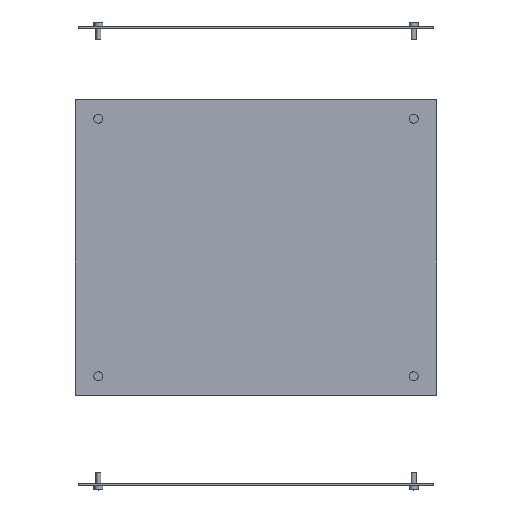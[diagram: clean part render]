
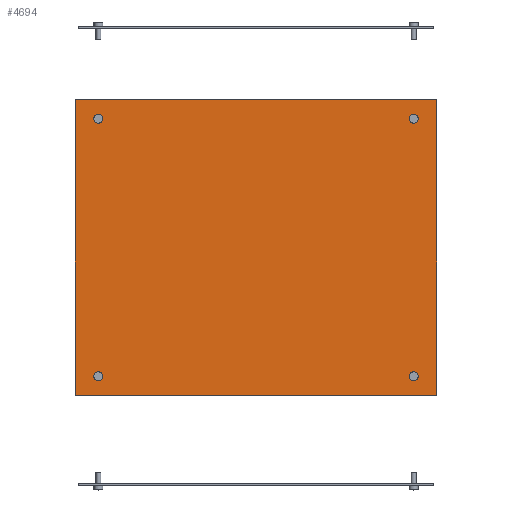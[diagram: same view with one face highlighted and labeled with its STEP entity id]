
A CAD part, top view. The second image highlights one B-rep face of the part: STEP entity #4694.
In plain terms, the highlighted planar face has unit normal (0, 0, 1).
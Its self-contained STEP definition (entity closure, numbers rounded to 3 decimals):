
#4505 = VERTEX_POINT('',#4506);
#4506 = CARTESIAN_POINT('',(-110.,-90.,155.));
#4513 = PLANE('',#4514);
#4514 = AXIS2_PLACEMENT_3D('',#4515,#4516,#4517);
#4515 = CARTESIAN_POINT('',(-110.,-90.,153.5));
#4516 = DIRECTION('',(1.,0.,0.));
#4517 = DIRECTION('',(0.,0.,1.));
#4525 = PLANE('',#4526);
#4526 = AXIS2_PLACEMENT_3D('',#4527,#4528,#4529);
#4527 = CARTESIAN_POINT('',(-110.,-90.,153.5));
#4528 = DIRECTION('',(0.,1.,0.));
#4529 = DIRECTION('',(0.,0.,1.));
#4566 = VERTEX_POINT('',#4567);
#4567 = CARTESIAN_POINT('',(-110.,90.,155.));
#4581 = PLANE('',#4582);
#4582 = AXIS2_PLACEMENT_3D('',#4583,#4584,#4585);
#4583 = CARTESIAN_POINT('',(-110.,90.,153.5));
#4584 = DIRECTION('',(0.,1.,0.));
#4585 = DIRECTION('',(0.,0.,1.));
#4593 = EDGE_CURVE('',#4505,#4566,#4594,.T.);
#4594 = SURFACE_CURVE('',#4595,(#4599,#4606),.PCURVE_S1.);
#4595 = LINE('',#4596,#4597);
#4596 = CARTESIAN_POINT('',(-110.,-90.,155.));
#4597 = VECTOR('',#4598,1.);
#4598 = DIRECTION('',(0.,1.,0.));
#4599 = PCURVE('',#4513,#4600);
#4600 = DEFINITIONAL_REPRESENTATION('',(#4601),#4605);
#4601 = LINE('',#4602,#4603);
#4602 = CARTESIAN_POINT('',(1.5,0.));
#4603 = VECTOR('',#4604,1.);
#4604 = DIRECTION('',(0.,-1.));
#4605 = ( GEOMETRIC_REPRESENTATION_CONTEXT(2) 
PARAMETRIC_REPRESENTATION_CONTEXT() REPRESENTATION_CONTEXT('2D SPACE',''
  ) );
#4606 = PCURVE('',#4607,#4612);
#4607 = PLANE('',#4608);
#4608 = AXIS2_PLACEMENT_3D('',#4609,#4610,#4611);
#4609 = CARTESIAN_POINT('',(-110.,-90.,155.));
#4610 = DIRECTION('',(0.,0.,1.));
#4611 = DIRECTION('',(1.,0.,0.));
#4612 = DEFINITIONAL_REPRESENTATION('',(#4613),#4617);
#4613 = LINE('',#4614,#4615);
#4614 = CARTESIAN_POINT('',(0.,0.));
#4615 = VECTOR('',#4616,1.);
#4616 = DIRECTION('',(0.,1.));
#4617 = ( GEOMETRIC_REPRESENTATION_CONTEXT(2) 
PARAMETRIC_REPRESENTATION_CONTEXT() REPRESENTATION_CONTEXT('2D SPACE',''
  ) );
#4646 = EDGE_CURVE('',#4505,#4647,#4649,.T.);
#4647 = VERTEX_POINT('',#4648);
#4648 = CARTESIAN_POINT('',(110.,-90.,155.));
#4649 = SURFACE_CURVE('',#4650,(#4654,#4661),.PCURVE_S1.);
#4650 = LINE('',#4651,#4652);
#4651 = CARTESIAN_POINT('',(-110.,-90.,155.));
#4652 = VECTOR('',#4653,1.);
#4653 = DIRECTION('',(1.,0.,0.));
#4654 = PCURVE('',#4525,#4655);
#4655 = DEFINITIONAL_REPRESENTATION('',(#4656),#4660);
#4656 = LINE('',#4657,#4658);
#4657 = CARTESIAN_POINT('',(1.5,0.));
#4658 = VECTOR('',#4659,1.);
#4659 = DIRECTION('',(0.,1.));
#4660 = ( GEOMETRIC_REPRESENTATION_CONTEXT(2) 
PARAMETRIC_REPRESENTATION_CONTEXT() REPRESENTATION_CONTEXT('2D SPACE',''
  ) );
#4661 = PCURVE('',#4607,#4662);
#4662 = DEFINITIONAL_REPRESENTATION('',(#4663),#4667);
#4663 = LINE('',#4664,#4665);
#4664 = CARTESIAN_POINT('',(0.,0.));
#4665 = VECTOR('',#4666,1.);
#4666 = DIRECTION('',(1.,0.));
#4667 = ( GEOMETRIC_REPRESENTATION_CONTEXT(2) 
PARAMETRIC_REPRESENTATION_CONTEXT() REPRESENTATION_CONTEXT('2D SPACE',''
  ) );
#4683 = PLANE('',#4684);
#4684 = AXIS2_PLACEMENT_3D('',#4685,#4686,#4687);
#4685 = CARTESIAN_POINT('',(110.,-90.,153.5));
#4686 = DIRECTION('',(1.,0.,0.));
#4687 = DIRECTION('',(0.,0.,1.));
#4694 = ADVANCED_FACE('',(#4695,#4743,#4774,#4805,#4836),#4607,.T.);
#4695 = FACE_BOUND('',#4696,.T.);
#4696 = EDGE_LOOP('',(#4697,#4698,#4699,#4722));
#4697 = ORIENTED_EDGE('',*,*,#4593,.F.);
#4698 = ORIENTED_EDGE('',*,*,#4646,.T.);
#4699 = ORIENTED_EDGE('',*,*,#4700,.T.);
#4700 = EDGE_CURVE('',#4647,#4701,#4703,.T.);
#4701 = VERTEX_POINT('',#4702);
#4702 = CARTESIAN_POINT('',(110.,90.,155.));
#4703 = SURFACE_CURVE('',#4704,(#4708,#4715),.PCURVE_S1.);
#4704 = LINE('',#4705,#4706);
#4705 = CARTESIAN_POINT('',(110.,-90.,155.));
#4706 = VECTOR('',#4707,1.);
#4707 = DIRECTION('',(0.,1.,0.));
#4708 = PCURVE('',#4607,#4709);
#4709 = DEFINITIONAL_REPRESENTATION('',(#4710),#4714);
#4710 = LINE('',#4711,#4712);
#4711 = CARTESIAN_POINT('',(220.,0.));
#4712 = VECTOR('',#4713,1.);
#4713 = DIRECTION('',(0.,1.));
#4714 = ( GEOMETRIC_REPRESENTATION_CONTEXT(2) 
PARAMETRIC_REPRESENTATION_CONTEXT() REPRESENTATION_CONTEXT('2D SPACE',''
  ) );
#4715 = PCURVE('',#4683,#4716);
#4716 = DEFINITIONAL_REPRESENTATION('',(#4717),#4721);
#4717 = LINE('',#4718,#4719);
#4718 = CARTESIAN_POINT('',(1.5,0.));
#4719 = VECTOR('',#4720,1.);
#4720 = DIRECTION('',(0.,-1.));
#4721 = ( GEOMETRIC_REPRESENTATION_CONTEXT(2) 
PARAMETRIC_REPRESENTATION_CONTEXT() REPRESENTATION_CONTEXT('2D SPACE',''
  ) );
#4722 = ORIENTED_EDGE('',*,*,#4723,.F.);
#4723 = EDGE_CURVE('',#4566,#4701,#4724,.T.);
#4724 = SURFACE_CURVE('',#4725,(#4729,#4736),.PCURVE_S1.);
#4725 = LINE('',#4726,#4727);
#4726 = CARTESIAN_POINT('',(-110.,90.,155.));
#4727 = VECTOR('',#4728,1.);
#4728 = DIRECTION('',(1.,0.,0.));
#4729 = PCURVE('',#4607,#4730);
#4730 = DEFINITIONAL_REPRESENTATION('',(#4731),#4735);
#4731 = LINE('',#4732,#4733);
#4732 = CARTESIAN_POINT('',(0.,180.));
#4733 = VECTOR('',#4734,1.);
#4734 = DIRECTION('',(1.,0.));
#4735 = ( GEOMETRIC_REPRESENTATION_CONTEXT(2) 
PARAMETRIC_REPRESENTATION_CONTEXT() REPRESENTATION_CONTEXT('2D SPACE',''
  ) );
#4736 = PCURVE('',#4581,#4737);
#4737 = DEFINITIONAL_REPRESENTATION('',(#4738),#4742);
#4738 = LINE('',#4739,#4740);
#4739 = CARTESIAN_POINT('',(1.5,0.));
#4740 = VECTOR('',#4741,1.);
#4741 = DIRECTION('',(0.,1.));
#4742 = ( GEOMETRIC_REPRESENTATION_CONTEXT(2) 
PARAMETRIC_REPRESENTATION_CONTEXT() REPRESENTATION_CONTEXT('2D SPACE',''
  ) );
#4743 = FACE_BOUND('',#4744,.T.);
#4744 = EDGE_LOOP('',(#4745));
#4745 = ORIENTED_EDGE('',*,*,#4746,.F.);
#4746 = EDGE_CURVE('',#4747,#4747,#4749,.T.);
#4747 = VERTEX_POINT('',#4748);
#4748 = CARTESIAN_POINT('',(-94.3,-78.5,155.));
#4749 = SURFACE_CURVE('',#4750,(#4755,#4762),.PCURVE_S1.);
#4750 = CIRCLE('',#4751,1.7);
#4751 = AXIS2_PLACEMENT_3D('',#4752,#4753,#4754);
#4752 = CARTESIAN_POINT('',(-96.,-78.5,155.));
#4753 = DIRECTION('',(0.,0.,1.));
#4754 = DIRECTION('',(1.,0.,-0.));
#4755 = PCURVE('',#4607,#4756);
#4756 = DEFINITIONAL_REPRESENTATION('',(#4757),#4761);
#4757 = CIRCLE('',#4758,1.7);
#4758 = AXIS2_PLACEMENT_2D('',#4759,#4760);
#4759 = CARTESIAN_POINT('',(14.,11.5));
#4760 = DIRECTION('',(1.,0.));
#4761 = ( GEOMETRIC_REPRESENTATION_CONTEXT(2) 
PARAMETRIC_REPRESENTATION_CONTEXT() REPRESENTATION_CONTEXT('2D SPACE',''
  ) );
#4762 = PCURVE('',#4763,#4768);
#4763 = CYLINDRICAL_SURFACE('',#4764,1.7);
#4764 = AXIS2_PLACEMENT_3D('',#4765,#4766,#4767);
#4765 = CARTESIAN_POINT('',(-96.,-78.5,152.5));
#4766 = DIRECTION('',(0.,0.,1.));
#4767 = DIRECTION('',(1.,0.,-0.));
#4768 = DEFINITIONAL_REPRESENTATION('',(#4769),#4773);
#4769 = LINE('',#4770,#4771);
#4770 = CARTESIAN_POINT('',(0.,2.5));
#4771 = VECTOR('',#4772,1.);
#4772 = DIRECTION('',(1.,0.));
#4773 = ( GEOMETRIC_REPRESENTATION_CONTEXT(2) 
PARAMETRIC_REPRESENTATION_CONTEXT() REPRESENTATION_CONTEXT('2D SPACE',''
  ) );
#4774 = FACE_BOUND('',#4775,.T.);
#4775 = EDGE_LOOP('',(#4776));
#4776 = ORIENTED_EDGE('',*,*,#4777,.F.);
#4777 = EDGE_CURVE('',#4778,#4778,#4780,.T.);
#4778 = VERTEX_POINT('',#4779);
#4779 = CARTESIAN_POINT('',(97.7,-78.5,155.));
#4780 = SURFACE_CURVE('',#4781,(#4786,#4793),.PCURVE_S1.);
#4781 = CIRCLE('',#4782,1.7);
#4782 = AXIS2_PLACEMENT_3D('',#4783,#4784,#4785);
#4783 = CARTESIAN_POINT('',(96.,-78.5,155.));
#4784 = DIRECTION('',(0.,0.,1.));
#4785 = DIRECTION('',(1.,0.,-0.));
#4786 = PCURVE('',#4607,#4787);
#4787 = DEFINITIONAL_REPRESENTATION('',(#4788),#4792);
#4788 = CIRCLE('',#4789,1.7);
#4789 = AXIS2_PLACEMENT_2D('',#4790,#4791);
#4790 = CARTESIAN_POINT('',(206.,11.5));
#4791 = DIRECTION('',(1.,0.));
#4792 = ( GEOMETRIC_REPRESENTATION_CONTEXT(2) 
PARAMETRIC_REPRESENTATION_CONTEXT() REPRESENTATION_CONTEXT('2D SPACE',''
  ) );
#4793 = PCURVE('',#4794,#4799);
#4794 = CYLINDRICAL_SURFACE('',#4795,1.7);
#4795 = AXIS2_PLACEMENT_3D('',#4796,#4797,#4798);
#4796 = CARTESIAN_POINT('',(96.,-78.5,152.5));
#4797 = DIRECTION('',(0.,0.,1.));
#4798 = DIRECTION('',(1.,0.,-0.));
#4799 = DEFINITIONAL_REPRESENTATION('',(#4800),#4804);
#4800 = LINE('',#4801,#4802);
#4801 = CARTESIAN_POINT('',(0.,2.5));
#4802 = VECTOR('',#4803,1.);
#4803 = DIRECTION('',(1.,0.));
#4804 = ( GEOMETRIC_REPRESENTATION_CONTEXT(2) 
PARAMETRIC_REPRESENTATION_CONTEXT() REPRESENTATION_CONTEXT('2D SPACE',''
  ) );
#4805 = FACE_BOUND('',#4806,.T.);
#4806 = EDGE_LOOP('',(#4807));
#4807 = ORIENTED_EDGE('',*,*,#4808,.F.);
#4808 = EDGE_CURVE('',#4809,#4809,#4811,.T.);
#4809 = VERTEX_POINT('',#4810);
#4810 = CARTESIAN_POINT('',(-94.3,78.5,155.));
#4811 = SURFACE_CURVE('',#4812,(#4817,#4824),.PCURVE_S1.);
#4812 = CIRCLE('',#4813,1.7);
#4813 = AXIS2_PLACEMENT_3D('',#4814,#4815,#4816);
#4814 = CARTESIAN_POINT('',(-96.,78.5,155.));
#4815 = DIRECTION('',(0.,0.,1.));
#4816 = DIRECTION('',(1.,0.,-0.));
#4817 = PCURVE('',#4607,#4818);
#4818 = DEFINITIONAL_REPRESENTATION('',(#4819),#4823);
#4819 = CIRCLE('',#4820,1.7);
#4820 = AXIS2_PLACEMENT_2D('',#4821,#4822);
#4821 = CARTESIAN_POINT('',(14.,168.5));
#4822 = DIRECTION('',(1.,0.));
#4823 = ( GEOMETRIC_REPRESENTATION_CONTEXT(2) 
PARAMETRIC_REPRESENTATION_CONTEXT() REPRESENTATION_CONTEXT('2D SPACE',''
  ) );
#4824 = PCURVE('',#4825,#4830);
#4825 = CYLINDRICAL_SURFACE('',#4826,1.7);
#4826 = AXIS2_PLACEMENT_3D('',#4827,#4828,#4829);
#4827 = CARTESIAN_POINT('',(-96.,78.5,152.5));
#4828 = DIRECTION('',(0.,0.,1.));
#4829 = DIRECTION('',(1.,0.,-0.));
#4830 = DEFINITIONAL_REPRESENTATION('',(#4831),#4835);
#4831 = LINE('',#4832,#4833);
#4832 = CARTESIAN_POINT('',(0.,2.5));
#4833 = VECTOR('',#4834,1.);
#4834 = DIRECTION('',(1.,0.));
#4835 = ( GEOMETRIC_REPRESENTATION_CONTEXT(2) 
PARAMETRIC_REPRESENTATION_CONTEXT() REPRESENTATION_CONTEXT('2D SPACE',''
  ) );
#4836 = FACE_BOUND('',#4837,.T.);
#4837 = EDGE_LOOP('',(#4838));
#4838 = ORIENTED_EDGE('',*,*,#4839,.F.);
#4839 = EDGE_CURVE('',#4840,#4840,#4842,.T.);
#4840 = VERTEX_POINT('',#4841);
#4841 = CARTESIAN_POINT('',(97.7,78.5,155.));
#4842 = SURFACE_CURVE('',#4843,(#4848,#4855),.PCURVE_S1.);
#4843 = CIRCLE('',#4844,1.7);
#4844 = AXIS2_PLACEMENT_3D('',#4845,#4846,#4847);
#4845 = CARTESIAN_POINT('',(96.,78.5,155.));
#4846 = DIRECTION('',(0.,0.,1.));
#4847 = DIRECTION('',(1.,0.,-0.));
#4848 = PCURVE('',#4607,#4849);
#4849 = DEFINITIONAL_REPRESENTATION('',(#4850),#4854);
#4850 = CIRCLE('',#4851,1.7);
#4851 = AXIS2_PLACEMENT_2D('',#4852,#4853);
#4852 = CARTESIAN_POINT('',(206.,168.5));
#4853 = DIRECTION('',(1.,0.));
#4854 = ( GEOMETRIC_REPRESENTATION_CONTEXT(2) 
PARAMETRIC_REPRESENTATION_CONTEXT() REPRESENTATION_CONTEXT('2D SPACE',''
  ) );
#4855 = PCURVE('',#4856,#4861);
#4856 = CYLINDRICAL_SURFACE('',#4857,1.7);
#4857 = AXIS2_PLACEMENT_3D('',#4858,#4859,#4860);
#4858 = CARTESIAN_POINT('',(96.,78.5,152.5));
#4859 = DIRECTION('',(0.,0.,1.));
#4860 = DIRECTION('',(1.,0.,-0.));
#4861 = DEFINITIONAL_REPRESENTATION('',(#4862),#4866);
#4862 = LINE('',#4863,#4864);
#4863 = CARTESIAN_POINT('',(0.,2.5));
#4864 = VECTOR('',#4865,1.);
#4865 = DIRECTION('',(1.,0.));
#4866 = ( GEOMETRIC_REPRESENTATION_CONTEXT(2) 
PARAMETRIC_REPRESENTATION_CONTEXT() REPRESENTATION_CONTEXT('2D SPACE',''
  ) );
